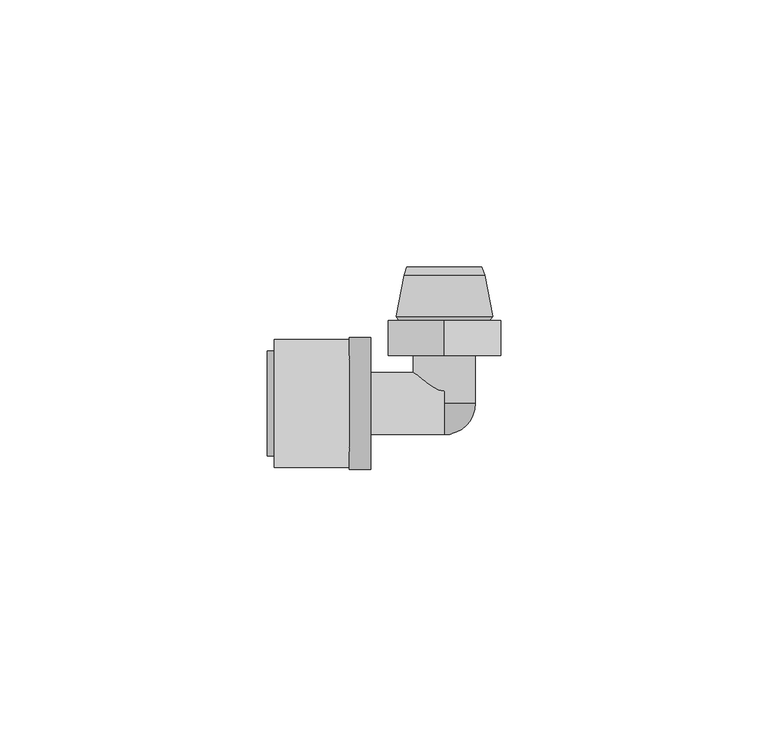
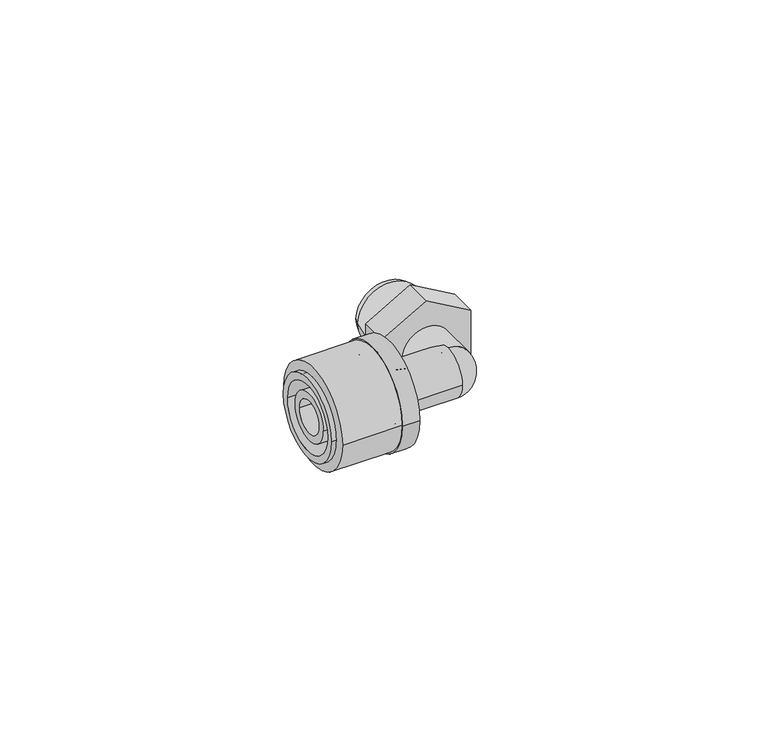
"""IFC4 building model written with IfcOpenShell, lengths in millimetres: pipe fitting geometry, FASTLOC_Elbow with male thread G LX : FSL A internal CZ."""

from ifc_helpers import new_model, si_unit, point, frame, origin, origin_2d, place, context, project, spatial, polyline, circle_curve, ellipse_curve, trimmed, segment, composite_curve, outline, extrude, source, transform, mapped, element, save
from ifc_brep_helpers import plane_surface, cylinder_surface, revolved_surface, advanced_brep


def pipe_fitting_91101529(model_context):
    return source(origin(), model_context, "Body", "SolidModel", [
        extrude(outline(composite_curve([segment(trimmed(circle_curve(origin_2d(), 12.0), [point((12.0, 0.0))], [point((-12.0, 0.0))], False, "CARTESIAN"), True, "CONTINUOUS"), segment(trimmed(circle_curve(origin_2d(), 12.0), [point((-12.0, 0.0))], [point((12.0, 0.0))], False, "CARTESIAN"), True, "CONTINUOUS")], self_intersect=False), holes=[composite_curve([segment(trimmed(circle_curve(origin_2d(), 8.85), [point((8.85, 0.0))], [point((-8.85, 0.0))], True, "CARTESIAN"), True, "CONTINUOUS"), segment(trimmed(circle_curve(origin_2d(), 8.85), [point((-8.85, 0.0))], [point((8.85, 0.0))], True, "CARTESIAN"), True, "CONTINUOUS")], self_intersect=False)]), frame((-31.8, 0.0, 0.0), z_axis=(1.0, 0.0, 0.0), x_axis=(0.0, 1.0, 0.0)), (0.0, 0.0, 1.0), 14.0),
        advanced_brep(
        [(-17.8, -12.35, 0.0), (-17.8, 12.35, 0.0), (-13.8, 12.35, 0.0), (-13.8, -12.35, 0.0), (-33.1, -9.85, 0.0), (-33.1, 9.85, 0.0), (-17.8, 9.85, 0.0), (-17.8, -9.85, 0.0), (-13.8, -8.15, 0.0), (-13.8, 8.15, 0.0), (-33.1, 8.15, 0.0), (-33.1, -8.15, 0.0)],
        [
            (0, 1, circle_curve(frame((-17.8, 0.0, 0.0), z_axis=(1.0, 0.0, 0.0), x_axis=(0.0, 1.0, 0.0)), 12.35)),
            (1, 2),
            (2, 3, circle_curve(frame((-13.8, 0.0, 0.0), z_axis=(-1.0, 0.0, 0.0), x_axis=(0.0, 1.0, 0.0)), 12.35)),
            (3, 0),
            (4, 5, circle_curve(frame((-33.1, 0.0, 0.0), z_axis=(1.0, 0.0, 0.0), x_axis=(0.0, 1.0, 0.0)), 9.85)),
            (5, 6),
            (6, 7, circle_curve(frame((-17.8, 0.0, 0.0), z_axis=(-1.0, 0.0, 0.0), x_axis=(0.0, 1.0, 0.0)), 9.85)),
            (7, 4),
            (8, 9, circle_curve(frame((-13.8, 0.0, 0.0), z_axis=(1.0, 0.0, 0.0), x_axis=(0.0, 1.0, 0.0)), 8.15)),
            (9, 10),
            (10, 11, circle_curve(frame((-33.1, 0.0, 0.0), z_axis=(-1.0, 0.0, 0.0), x_axis=(0.0, 1.0, 0.0)), 8.15)),
            (11, 8),
            (1, 0, circle_curve(frame((-17.8, 0.0, 0.0), z_axis=(1.0, 0.0, 0.0), x_axis=(0.0, -1.0, 0.0)), 12.35)),
            (3, 2, circle_curve(frame((-13.8, 0.0, 0.0), z_axis=(-1.0, 0.0, 0.0), x_axis=(0.0, -1.0, 0.0)), 12.35)),
            (6, 7, circle_curve(frame((-17.8, 0.0, 0.0), z_axis=(1.0, 0.0, 0.0), x_axis=(0.0, -1.0, 0.0)), 9.85)),
            (5, 4, circle_curve(frame((-33.1, 0.0, 0.0), z_axis=(1.0, 0.0, 0.0), x_axis=(0.0, -1.0, 0.0)), 9.85)),
            (10, 11, circle_curve(frame((-33.1, 0.0, 0.0), z_axis=(1.0, 0.0, 0.0), x_axis=(0.0, -1.0, 0.0)), 8.15)),
            (9, 8, circle_curve(frame((-13.8, 0.0, 0.0), z_axis=(1.0, 0.0, 0.0), x_axis=(0.0, -1.0, 0.0)), 8.15)),
        ],
        [
            cylinder_surface(frame((-13.8, 0.0, 0.0), z_axis=(-1.0, 0.0, 0.0), x_axis=(0.0, 1.0, 0.0)), 12.35),
            cylinder_surface(frame((-13.8, 0.0, 0.0), z_axis=(-1.0, 0.0, 0.0), x_axis=(0.0, 1.0, 0.0)), 9.85),
            revolved_surface(polyline([(-33.1, 8.15, 0.0), (-13.8, 8.15, 0.0)]), (-13.8, 0.0, 0.0), (-1.0, 0.0, 0.0)),
            cylinder_surface(frame((-13.8, 0.0, 0.0), z_axis=(-1.0, 0.0, 0.0), x_axis=(0.0, -1.0, 0.0)), 12.35),
            plane_surface(frame((-17.8, 0.0, 0.0), z_axis=(-1.0, 0.0, 0.0), x_axis=(0.0, -1.0, 0.0))),
            cylinder_surface(frame((-13.8, 0.0, 0.0), z_axis=(-1.0, 0.0, 0.0), x_axis=(0.0, -1.0, 0.0)), 9.85),
            plane_surface(frame((-33.1, 0.0, 0.0), z_axis=(-1.0, 0.0, 0.0), x_axis=(0.0, -1.0, 0.0))),
            revolved_surface(polyline([(-33.1, -8.15, 0.0), (-13.8, -8.15, 0.0)]), (-13.8, 0.0, 0.0), (-1.0, 0.0, 0.0)),
            plane_surface(frame((-13.8, 0.0, 0.0), z_axis=(1.0, 0.0, 0.0), x_axis=(0.0, -1.0, 0.0))),
        ],
        [
            (0, [[1, 2, 3, 4]]),
            (1, [[5, 6, 7, 8]]),
            (2, [[9, 10, 11, 12]]),
            (3, [[13, -4, 14, -2]]),
            (4, [[-13, -1], [15, -7]]),
            (5, [[16, -8, -15, -6]]),
            (6, [[-16, -5], [17, -11]]),
            (7, [[18, -12, -17, -10]]),
            (8, [[-14, -3], [-18, -9]]),
        ],
    ),
        advanced_brep(
        [(-17.8, 5.8, 0.0), (-17.8, -5.8, 0.0), (-32.7, -5.8, 0.0), (-32.7, 5.8, 0.0), (-15.1, 6.9, 0.0), (-15.1, -6.9, 0.0), (-17.8, -6.9, 0.0), (-17.8, 6.9, 0.0), (0.0, 5.8, 0.0), (0.0, -5.8, 0.0), (-15.1, -5.8, 0.0), (-15.1, 5.8, 0.0), (-32.7, 3.95, 0.0), (-32.7, -3.95, 0.0), (0.0, -3.95, 0.0), (0.0, 3.95, 0.0)],
        [
            (0, 1, circle_curve(frame((-17.8, 0.0, 0.0), z_axis=(-1.0, 0.0, 0.0), x_axis=(0.0, -1.0, 0.0)), 5.8)),
            (1, 2),
            (2, 3, circle_curve(frame((-32.7, 0.0, 0.0), z_axis=(1.0, 0.0, 0.0), x_axis=(0.0, -1.0, 0.0)), 5.8)),
            (3, 0),
            (4, 5, circle_curve(frame((-15.1, 0.0, 0.0), z_axis=(-1.0, 0.0, 0.0), x_axis=(0.0, -1.0, 0.0)), 6.9)),
            (5, 6),
            (6, 7, circle_curve(frame((-17.8, 0.0, 0.0), z_axis=(1.0, 0.0, 0.0), x_axis=(0.0, -1.0, 0.0)), 6.9)),
            (7, 4),
            (8, 9, circle_curve(frame((0.0, 0.0, 0.0), z_axis=(-1.0, 0.0, 0.0), x_axis=(0.0, -1.0, 0.0)), 5.8)),
            (9, 10),
            (10, 11, circle_curve(frame((-15.1, 0.0, 0.0), z_axis=(1.0, 0.0, 0.0), x_axis=(0.0, -1.0, 0.0)), 5.8)),
            (11, 8),
            (12, 13, circle_curve(frame((-32.7, 0.0, 0.0), z_axis=(-1.0, 0.0, 0.0), x_axis=(0.0, -1.0, 0.0)), 3.95)),
            (13, 14),
            (14, 15, circle_curve(frame((0.0, 0.0, 0.0), z_axis=(1.0, 0.0, 0.0), x_axis=(0.0, -1.0, 0.0)), 3.95)),
            (15, 12),
            (2, 3, circle_curve(frame((-32.7, 0.0, 0.0), z_axis=(-1.0, 0.0, 0.0), x_axis=(0.0, 1.0, 0.0)), 5.8)),
            (12, 13, circle_curve(frame((-32.7, 0.0, 0.0), z_axis=(1.0, 0.0, 0.0), x_axis=(0.0, 1.0, 0.0)), 3.95)),
            (1, 0, circle_curve(frame((-17.8, 0.0, 0.0), z_axis=(-1.0, 0.0, 0.0), x_axis=(0.0, 1.0, 0.0)), 5.8)),
            (6, 7, circle_curve(frame((-17.8, 0.0, 0.0), z_axis=(-1.0, 0.0, 0.0), x_axis=(0.0, 1.0, 0.0)), 6.9)),
            (5, 4, circle_curve(frame((-15.1, 0.0, 0.0), z_axis=(-1.0, 0.0, 0.0), x_axis=(0.0, 1.0, 0.0)), 6.9)),
            (10, 11, circle_curve(frame((-15.1, 0.0, 0.0), z_axis=(-1.0, 0.0, 0.0), x_axis=(0.0, 1.0, 0.0)), 5.8)),
            (9, 8, circle_curve(frame((0.0, 0.0, 0.0), z_axis=(-1.0, 0.0, 0.0), x_axis=(0.0, 1.0, 0.0)), 5.8)),
            (14, 15, circle_curve(frame((0.0, 0.0, 0.0), z_axis=(-1.0, 0.0, 0.0), x_axis=(0.0, 1.0, 0.0)), 3.95)),
        ],
        [
            cylinder_surface(frame((0.0, 0.0, 0.0), z_axis=(1.0, 0.0, 0.0), x_axis=(0.0, -1.0, 0.0)), 5.8),
            cylinder_surface(frame((0.0, 0.0, 0.0), z_axis=(1.0, 0.0, 0.0), x_axis=(0.0, -1.0, 0.0)), 6.9),
            revolved_surface(polyline([(0.0, -3.95, 0.0), (-32.7, -3.95, 0.0)]), (0.0, 0.0, 0.0), (1.0, 0.0, 0.0)),
            plane_surface(frame((-32.7, 0.0, 0.0), z_axis=(-1.0, 0.0, 0.0), x_axis=(0.0, 1.0, 0.0))),
            cylinder_surface(frame((0.0, 0.0, 0.0), z_axis=(1.0, 0.0, 0.0), x_axis=(0.0, 1.0, 0.0)), 5.8),
            plane_surface(frame((-17.8, 0.0, 0.0), z_axis=(-1.0, 0.0, 0.0), x_axis=(0.0, 1.0, 0.0))),
            cylinder_surface(frame((0.0, 0.0, 0.0), z_axis=(1.0, 0.0, 0.0), x_axis=(0.0, 1.0, 0.0)), 6.9),
            plane_surface(frame((-15.1, 0.0, 0.0), z_axis=(1.0, 0.0, 0.0), x_axis=(0.0, 1.0, 0.0))),
            plane_surface(frame((0.0, 0.0, 0.0), z_axis=(1.0, 0.0, 0.0), x_axis=(0.0, 1.0, 0.0))),
            revolved_surface(polyline([(0.0, 3.95, 0.0), (-32.7, 3.95, 0.0)]), (0.0, 0.0, 0.0), (1.0, 0.0, 0.0)),
        ],
        [
            (0, [[1, 2, 3, 4]]),
            (1, [[5, 6, 7, 8]]),
            (0, [[9, 10, 11, 12]]),
            (2, [[13, 14, 15, 16]]),
            (3, [[17, -3], [18, -13]]),
            (4, [[19, -4, -17, -2]]),
            (5, [[20, -7], [-19, -1]]),
            (6, [[21, -8, -20, -6]]),
            (7, [[-21, -5], [22, -11]]),
            (4, [[23, -12, -22, -10]]),
            (8, [[-23, -9], [24, -15]]),
            (9, [[-18, -16, -24, -14]]),
        ],
    ),
        advanced_brep(
        [(7.5, 24.0000007, 0.0), (-7.5, 24.0000007, 0.0), (-7.0, 25.5, 0.0), (7.0, 25.5, 0.0), (9.0, 16.2406902, 0.0), (-9.0, 16.2406902, 0.0), (8.5, 15.5, 0.0), (-8.5, 15.5, 0.0), (5.1, 16.6032803, 0.0), (-5.1, 16.6032803, 0.0), (-3.9967197, 15.5, 0.0), (3.9967197, 15.5, 0.0), (5.1, 25.5, 0.0), (-5.1, 25.5, 0.0)],
        [
            (0, 1, circle_curve(frame((0.0, 24.0000007, 0.0), z_axis=(0.0, 1.0, 0.0), x_axis=(-1.0, 0.0, 0.0)), 7.5)),
            (1, 2),
            (2, 3, circle_curve(frame((0.0, 25.5, 0.0), z_axis=(0.0, -1.0, 0.0), x_axis=(-1.0, 0.0, 0.0)), 7.0)),
            (3, 0),
            (4, 5, circle_curve(frame((0.0, 16.2406902, 0.0), z_axis=(0.0, 1.0, 0.0), x_axis=(-1.0, 0.0, 0.0)), 9.0)),
            (5, 1),
            (0, 4),
            (6, 7, circle_curve(frame((0.0, 15.5, 0.0), z_axis=(0.0, 1.0, 0.0), x_axis=(-1.0, 0.0, 0.0)), 8.5)),
            (7, 5),
            (4, 6),
            (8, 9, circle_curve(frame((0.0, 16.6032803, 0.0), z_axis=(0.0, 1.0, 0.0), x_axis=(-1.0, 0.0, 0.0)), 5.1)),
            (9, 10),
            (10, 11, circle_curve(frame((0.0, 15.5, 0.0), z_axis=(0.0, -1.0, 0.0), x_axis=(-1.0, 0.0, 0.0)), 3.9967197)),
            (11, 8),
            (12, 13, circle_curve(frame((0.0, 25.5, 0.0), z_axis=(0.0, 1.0, 0.0), x_axis=(-1.0, 0.0, 0.0)), 5.1)),
            (13, 9),
            (8, 12),
            (2, 3, circle_curve(frame((0.0, 25.5, 0.0), z_axis=(0.0, 1.0, 0.0), x_axis=(1.0, 0.0, 0.0)), 7.0)),
            (12, 13, circle_curve(frame((0.0, 25.5, 0.0), z_axis=(0.0, -1.0, 0.0), x_axis=(1.0, 0.0, 0.0)), 5.1)),
            (1, 0, circle_curve(frame((0.0, 24.0000007, 0.0), z_axis=(0.0, 1.0, 0.0), x_axis=(1.0, 0.0, 0.0)), 7.5)),
            (5, 4, circle_curve(frame((0.0, 16.2406902, 0.0), z_axis=(0.0, 1.0, 0.0), x_axis=(1.0, 0.0, 0.0)), 9.0)),
            (7, 6, circle_curve(frame((0.0, 15.5, 0.0), z_axis=(0.0, 1.0, 0.0), x_axis=(1.0, 0.0, 0.0)), 8.5)),
            (10, 11, circle_curve(frame((0.0, 15.5, 0.0), z_axis=(0.0, 1.0, 0.0), x_axis=(1.0, 0.0, 0.0)), 3.9967197)),
            (9, 8, circle_curve(frame((0.0, 16.6032803, 0.0), z_axis=(0.0, 1.0, 0.0), x_axis=(1.0, 0.0, 0.0)), 5.1)),
        ],
        [
            revolved_surface(polyline([(-7.0, 25.5, 0.0), (-7.5, 24.0000007, 0.0)]), (0.0, 9.0, 0.0), (0.0, -1.0, 0.0)),
            revolved_surface(polyline([(-7.5, 24.0000007, 0.0), (-9.0, 16.2406902, 0.0)]), (0.0, 9.0, 0.0), (0.0, -1.0, 0.0)),
            revolved_surface(polyline([(-9.0, 16.2406902, 0.0), (-8.5, 15.5, 0.0)]), (0.0, 9.0, 0.0), (0.0, -1.0, 0.0)),
            revolved_surface(polyline([(-3.9967197, 15.5, 0.0), (-5.1, 16.6032803, 0.0)]), (0.0, 9.0, 0.0), (0.0, -1.0, 0.0)),
            revolved_surface(polyline([(-5.1, 16.6032803, 0.0), (-5.1, 25.5, 0.0)]), (0.0, 9.0, 0.0), (0.0, -1.0, 0.0)),
            plane_surface(frame((0.0, 25.5, 0.0), z_axis=(0.0, 1.0, 0.0), x_axis=(1.0, 0.0, 0.0))),
            revolved_surface(polyline([(7.0, 25.5, 0.0), (7.5, 24.0000007, 0.0)]), (0.0, 9.0, 0.0), (0.0, -1.0, 0.0)),
            revolved_surface(polyline([(7.5, 24.0000007, 0.0), (9.0, 16.2406902, 0.0)]), (0.0, 9.0, 0.0), (0.0, -1.0, 0.0)),
            revolved_surface(polyline([(9.0, 16.2406902, 0.0), (8.5, 15.5, 0.0)]), (0.0, 9.0, 0.0), (0.0, -1.0, 0.0)),
            plane_surface(frame((0.0, 15.5, 0.0), z_axis=(0.0, -1.0, 0.0), x_axis=(1.0, 0.0, 0.0))),
            revolved_surface(polyline([(3.9967197, 15.5, 0.0), (5.1, 16.6032803, 0.0)]), (0.0, 9.0, 0.0), (0.0, -1.0, 0.0)),
            revolved_surface(polyline([(5.1, 16.6032803, 0.0), (5.1, 25.5, 0.0)]), (0.0, 9.0, 0.0), (0.0, -1.0, 0.0)),
        ],
        [
            (0, [[1, 2, 3, 4]]),
            (1, [[5, 6, -1, 7]]),
            (2, [[8, 9, -5, 10]]),
            (3, [[11, 12, 13, 14]]),
            (4, [[15, 16, -11, 17]]),
            (5, [[18, -3], [19, -15]]),
            (6, [[20, -4, -18, -2]]),
            (7, [[21, -7, -20, -6]]),
            (8, [[22, -10, -21, -9]]),
            (9, [[-22, -8], [23, -13]]),
            (10, [[24, -14, -23, -12]]),
            (11, [[-19, -17, -24, -16]]),
        ],
    ),
        advanced_brep(
        [(0.0, -5.8, 0.0), (0.0, 0.0, 5.8), (0.0, 0.0, 3.75), (0.0, -3.75, 0.0), (0.0, 0.0, -3.75), (0.0, 0.0, -5.8)],
        [
            (0, 1, circle_curve(frame((0.0, 0.0, 0.0), z_axis=(-1.0, 0.0, 0.0), x_axis=(0.0, 0.0, 1.0)), 5.8)),
            (1, 2),
            (2, 3, circle_curve(frame((0.0, 0.0, 0.0), z_axis=(1.0, 0.0, 0.0), x_axis=(0.0, 0.0, 1.0)), 3.75)),
            (3, 0),
            (3, 4, circle_curve(frame((0.0, 0.0, 0.0), z_axis=(1.0, 0.0, 0.0), x_axis=(0.0, 0.0, -1.0)), 3.75)),
            (4, 5),
            (5, 0, circle_curve(frame((0.0, 0.0, 0.0), z_axis=(-1.0, 0.0, 0.0), x_axis=(0.0, 0.0, -1.0)), 5.8)),
            (5, 1, circle_curve(frame((0.0, 0.0, 0.0), z_axis=(0.0, -1.0, 0.0), x_axis=(0.0, 0.0, 1.0)), 5.8)),
            (4, 2, circle_curve(frame((0.0, 0.0, 0.0), z_axis=(0.0, -1.0, 0.0), x_axis=(0.0, 0.0, 1.0)), 3.75)),
        ],
        [
            plane_surface(frame((0.0, 0.0, 0.0), z_axis=(-1.0, 0.0, 0.0), x_axis=(0.0, 0.0, 1.0))),
            plane_surface(frame((0.0, 0.0, 0.0), z_axis=(-1.0, 0.0, 0.0), x_axis=(0.0, 0.0, -1.0))),
            revolved_surface(trimmed(ellipse_curve(frame((0.0, 0.0, 0.0), z_axis=(-1.0, 0.0, 0.0), x_axis=(0.0, 0.0, 1.0)), 5.8, 5.8), [point((0.0, -5.8, 0.0))], [point((0.0, 0.0, 5.8))], True, "CARTESIAN"), (0.0, 0.0, 0.0), (0.0, 1.0, 0.0)),
            plane_surface(frame((0.0, 0.0, 0.0), z_axis=(0.0, 1.0, 0.0), x_axis=(0.0, 0.0, 1.0))),
            revolved_surface(trimmed(ellipse_curve(frame((0.0, 0.0, 0.0), z_axis=(1.0, 0.0, 0.0), x_axis=(0.0, 0.0, 1.0)), 3.75, 3.75), [point((0.0, 0.0, 3.75))], [point((0.0, -3.75, 0.0))], True, "CARTESIAN"), (0.0, 0.0, 0.0), (0.0, 1.0, 0.0)),
        ],
        [
            (0, [[1, 2, 3, 4]]),
            (1, [[5, 6, 7, -4]]),
            (2, [[8, -1, -7]]),
            (3, [[9, -2, -8, -6]]),
            (4, [[-3, -9, -5]]),
        ],
    ),
        extrude(outline(polyline([(-6.0621778, 10.5), (6.0621778, 10.5), (12.1243557, 0.0), (6.0621778, -10.5), (-6.0621778, -10.5), (-12.1243557, 0.0), (-6.0621778, 10.5)])), frame((0.0, 9.0, 0.0), z_axis=(0.0, 1.0, 0.0), x_axis=(0.0, 0.0, 1.0)), (0.0, 0.0, 1.0), 6.5),
        extrude(outline(composite_curve([segment(trimmed(circle_curve(origin_2d(), 5.8), [point((0.0, -5.8))], [point((0.0, 5.8))], False, "CARTESIAN"), True, "CONTINUOUS"), segment(trimmed(circle_curve(origin_2d(), 5.8), [point((0.0, 5.8))], [point((0.0, -5.8))], False, "CARTESIAN"), True, "CONTINUOUS")], self_intersect=False), holes=[composite_curve([segment(trimmed(circle_curve(origin_2d(), 3.95), [point((0.0, -3.95))], [point((0.0, 3.95))], True, "CARTESIAN"), True, "CONTINUOUS"), segment(trimmed(circle_curve(origin_2d(), 3.95), [point((0.0, 3.95))], [point((0.0, -3.95))], True, "CARTESIAN"), True, "CONTINUOUS")], self_intersect=False)]), frame((0.0, 0.0, 0.0), z_axis=(0.0, 1.0, 0.0), x_axis=(0.0, 0.0, 1.0)), (0.0, 0.0, 1.0), 9.0),
    ])


if __name__ == "__main__":
    model = new_model("IFC4")
    model_context = context("Model", 3, world=origin())
    ifc_project = project(units=[si_unit("LENGTHUNIT", "METRE", prefix="MILLI")], contexts=[model_context])
    site = spatial("IfcSite", under=ifc_project)
    building = spatial("IfcBuilding", under=site)
    placement = place(None, origin())
    pipe_fitting_shape = pipe_fitting_91101529(model_context)
    element("IfcPipeFitting", 1, ObjectType="FASTLOC_Elbow with male thread G LX : FSL A internal CZ", at=placement, inside=building, context=model_context, shape_type="MappedRepresentation", body=[
        mapped(pipe_fitting_shape, transform((0.0, 0.0, 0.0), x_axis=(1.0, 0.0, 0.0), y_axis=(0.0, 1.0, 0.0), z_axis=(0.0, 0.0, 1.0))),
    ])
    save(model, "model.ifc")
